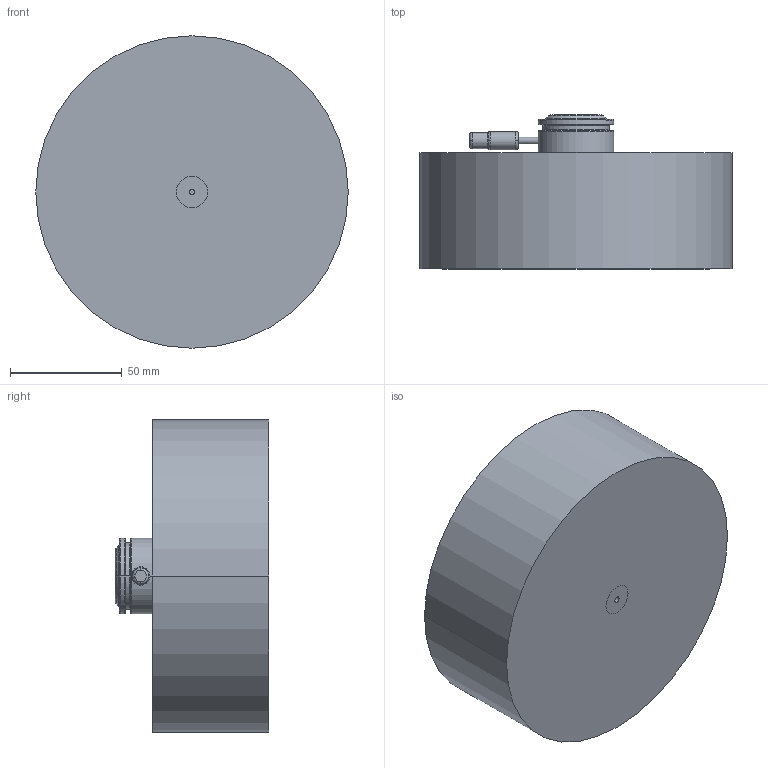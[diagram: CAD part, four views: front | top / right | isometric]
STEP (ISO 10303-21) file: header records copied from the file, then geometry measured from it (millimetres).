
FILE_DESCRIPTION((''),'2;1');
FILE_NAME('M34C101.stp','2020-09-17T12:52:53',(''),(''),'AutoCAD STEP 2000i','AutoCAD 2000i',', , ');
FILE_SCHEMA(('CONFIG_CONTROL_DESIGN'));
Length unit declared in the file: millimetre
Products named in the file (3): DRAWING1; MOLD BODY C M34; NOZZLE M 101 C 34
Assembly tree (2 placements, depth 2):
  DRAWING1
    MOLD BODY C M34
    NOZZLE M 101 C 34
Bounding box: 140 x 69 x 140 mm (x, y, z)
Volume: 811353.2 mm3; surface area: 64688.5 mm2
Topology: 2 solids, 2 shells, 107 faces, 253 edges, 161 vertices
Faces by surface type: cylinder 32, cone 32, plane 17, bspline 14, torus 12
Entity records: 3868 total; most frequent: CARTESIAN_POINT 1171, DIRECTION 621, ORIENTED_EDGE 502, AXIS2_PLACEMENT_3D 277, EDGE_CURVE 251, CIRCLE 181, VERTEX_POINT 161, EDGE_LOOP 122
